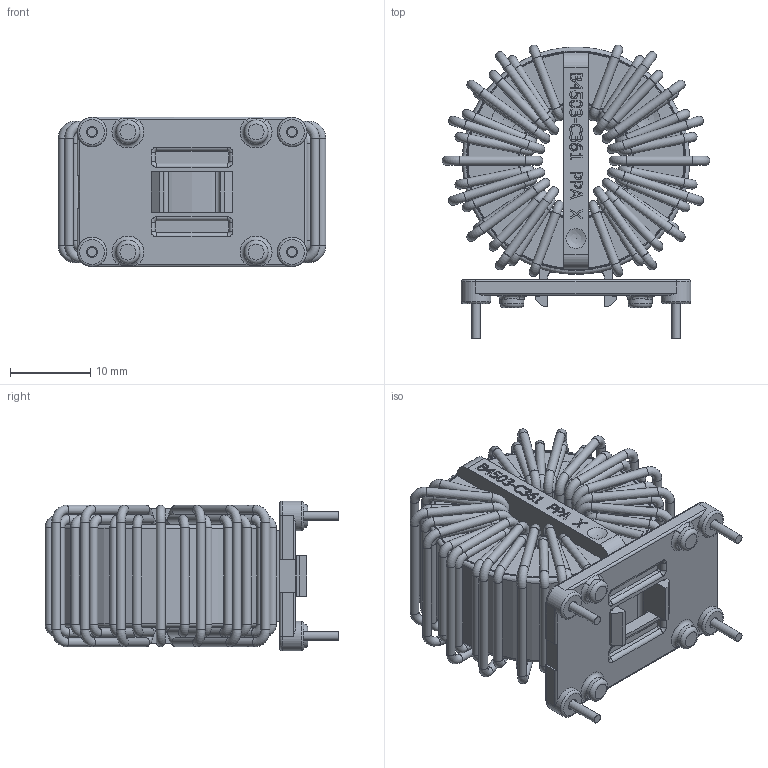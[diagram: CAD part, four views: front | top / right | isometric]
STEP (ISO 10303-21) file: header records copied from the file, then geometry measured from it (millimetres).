
FILE_DESCRIPTION(/* description */ (''),/* implementation_level */ '2;1');
FILE_NAME(/* name */ 'G:\KB-FTKon\CAD\Inventor\Bauelementnummer\6127-X010\6127-X010_Shrinkwrap_1.stp',/* time_stamp */ '2019-04-30T10:54:37+02:00',/* author */ ('de041100'),/* organization */ (''),/* preprocessor_version */ 'ST-DEVELOPER v17.2',/* originating_system */ 'Autodesk Inventor 2019',/* authorisation */ '');
FILE_SCHEMA (('AUTOMOTIVE_DESIGN { 1 0 10303 214 3 1 1 }'));
Products named in the file (1): 6127-X010_Shrinkwrap_1
Bounding box: 33.42 x 36.7 x 18.7 mm (x, y, z)
Volume: 9763.8 mm3; surface area: 12150.3 mm2
Topology: 43 solids, 43 shells, 1454 faces, 4168 edges, 2776 vertices
Faces by surface type: plane 557, bspline 382, cylinder 285, torus 220, sphere 6, cone 4
Full cylindrical faces by diameter (mm): 1.12 x162, 1.4 x4, 3 x4, 3.7 x4, 13.2 x1, 14.4 x1, 27.2 x1, 28.4 x1
Entity records: 52986 total; most frequent: CARTESIAN_POINT 14796, ORIENTED_EDGE 8326, DIRECTION 6721, EDGE_CURVE 4163, VERTEX_POINT 2776, AXIS2_PLACEMENT_3D 2363, LINE 1995, VECTOR 1995
